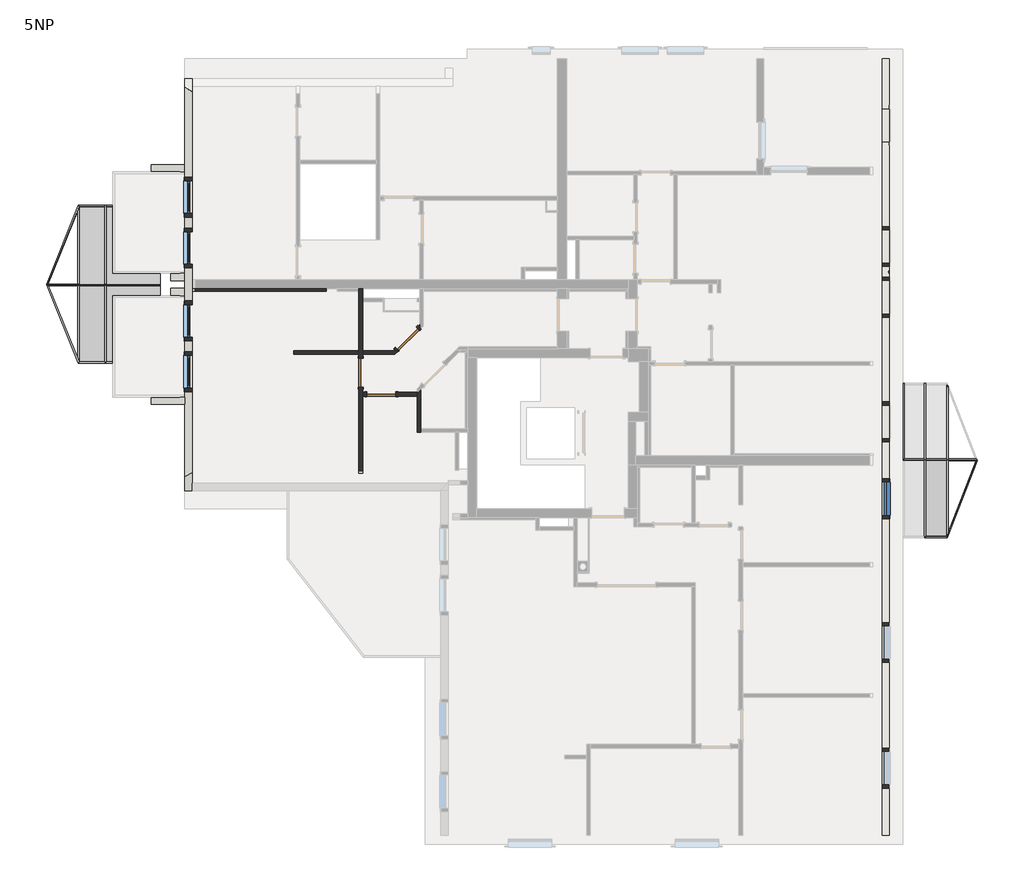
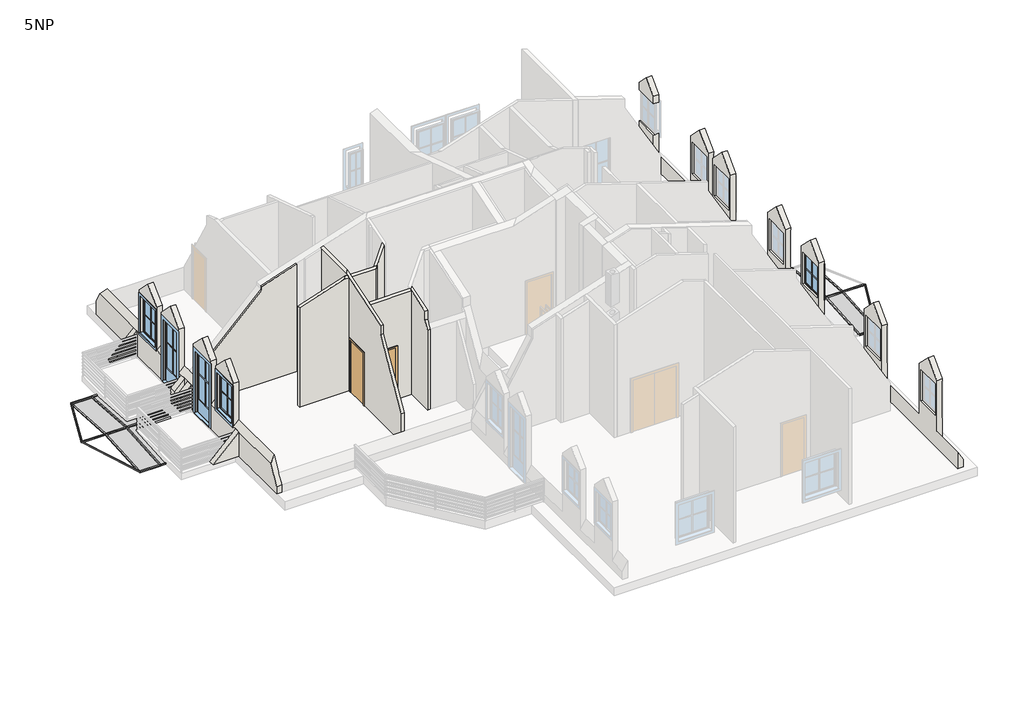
# One storey, part 2 of 4: 23 members, 13 walls, 5 plates, 5 windows, 3 doors.
"""IFC4 building model written with IfcOpenShell, lengths in millimetres."""

from ifc_helpers import new_model, si_unit, frame, origin, place, context, project, spatial, polyline, outline, extrude, faceted_brep, transform, mapped, element, save
from components import sd_800x2000_6a16926d, rectangular_mullion_40_40_c07c6f16, rectangular_mullion_40_40_c2750e26, rectangular_mullion_40_40_e33aa6b6, rectangular_mullion_40_40_65788530, rectangular_mullion_40_40_b48b72c3, rectangular_mullion_40_40_37a0d8a2, rectangular_mullion_40_40_590cdca0, rectangular_mullion_40_40_604e859a, rectangular_mullion_40_40_eb6bbd94, rectangular_mullion_40_40_bc456549, rectangular_mullion_40_40_ef17f03d, rectangular_mullion_40_40_d6f90903, rectangular_mullion_40_40_8bbfeddd, rectangular_mullion_40_40_5d815b55, rectangular_mullion_40_40_e56146ee, rectangular_mullion_40_40_14cc0a15, rectangular_mullion_40_40_f4a16c9e, rectangular_mullion_40_40_fbd32b48, rectangular_mullion_40_40_a7a4ca4f, system_panel_system_panel_37f665d0, system_panel_system_panel_7bef43a2, system_panel_system_panel_15dd2017, system_panel_system_panel_e4e5b0d0, system_panel_system_panel_76da7413, standard_window_with_mullions_4ddc0d11, standard_window_with_mullions_4f38f980, window_2_c3f3d78e, window_2_1320fec1

model = new_model("IFC4")

# Units and contexts
model_context = context("Model", 3, world=origin())
ifc_project = project(units=[si_unit("LENGTHUNIT", "METRE", prefix="MILLI")], contexts=[model_context])

# Site, building, storey
site = spatial("IfcSite", under=ifc_project)
building = spatial("IfcBuilding", under=site)
storey = spatial("IfcBuildingStorey", under=building, Name="5NP", Elevation=11800.0)

# Doors
placement = place(None, origin())
sd_800x2000_shape = sd_800x2000_6a16926d(model_context)
element("IfcDoor", 1, ObjectType="JednokridlePlne : SD 800x2000", at=placement, inside=storey, context=model_context, shape_type="MappedRepresentation", body=[
    mapped(sd_800x2000_shape, transform((-4517.2943935, 2840.0499619, 11800.0), x_axis=(0.712655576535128, 0.7015140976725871, 0.0), y_axis=(-0.7015140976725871, 0.712655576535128, 0.0), z_axis=(0.0, 0.0, 1.0))),
])
element("IfcDoor", 2, ObjectType="JednokridlePlne : SD 800x2000", at=placement, inside=storey, context=model_context, shape_type="MappedRepresentation", body=[
    mapped(sd_800x2000_shape, transform((-5807.1962165, 1908.3946515, 11800.0), x_axis=(0.0, -1.0, 0.0), y_axis=(1.0, 0.0, 0.0), z_axis=(0.0, 0.0, 1.0))),
])
element("IfcDoor", 3, ObjectType="JednokridlePlne : SD 800x2000", at=placement, inside=storey, context=model_context, shape_type="MappedRepresentation", body=[
    mapped(sd_800x2000_shape, transform((-5239.8211798, 1317.6290541, 11800.0), x_axis=(1.0, 0.0, 0.0), y_axis=(0.0, 1.0, 0.0), z_axis=(0.0, 0.0, 1.0))),
])

# Members
rectangular_mullion_40_40_shape = rectangular_mullion_40_40_c07c6f16(model_context)
element("IfcMember", 4, ObjectType="Rectangular Mullion : 40/40", at=placement, inside=storey, context=model_context, shape_type="MappedRepresentation", body=[
    mapped(rectangular_mullion_40_40_shape, transform((-12817.1962165, 4342.6290541, 11681.4726398), x_axis=(0.0, 0.9975640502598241, 0.06975647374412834), y_axis=(0.0, 0.06975647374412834, -0.9975640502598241), z_axis=(-1.0, 0.0, 0.0))),
])
rectangular_mullion_40_40_2_shape = rectangular_mullion_40_40_c2750e26(model_context)
element("IfcMember", 5, ObjectType="Rectangular Mullion : 40/40", at=placement, inside=storey, context=model_context, shape_type="MappedRepresentation", body=[
    mapped(rectangular_mullion_40_40_2_shape, transform((-13567.1962165, 4342.6290541, 11681.4726398), x_axis=(0.0, 0.9975640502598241, 0.06975647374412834), y_axis=(0.0, 0.06975647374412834, -0.9975640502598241), z_axis=(-1.0, 0.0, 0.0))),
])
rectangular_mullion_40_40_3_shape = rectangular_mullion_40_40_e33aa6b6(model_context)
element("IfcMember", 6, ObjectType="Rectangular Mullion : 40/40", at=placement, inside=storey, context=model_context, shape_type="MappedRepresentation", body=[
    mapped(rectangular_mullion_40_40_3_shape, transform((11184.5471242, -507.3709459, 11678.5944754), x_axis=(0.0, -0.9975640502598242, 0.06975647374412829), y_axis=(0.0, -0.06975647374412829, -0.9975640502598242), z_axis=(1.0, 0.0, 0.0))),
])
rectangular_mullion_40_40_4_shape = rectangular_mullion_40_40_65788530(model_context)
element("IfcMember", 7, ObjectType="Rectangular Mullion : 40/40", at=placement, inside=storey, context=model_context, shape_type="MappedRepresentation", body=[
    mapped(rectangular_mullion_40_40_4_shape, transform((10338.0299794, -507.3709459, 11678.5944754), x_axis=(0.0, -0.9975640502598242, 0.06975647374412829), y_axis=(0.0, -0.06975647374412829, -0.9975640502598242), z_axis=(1.0, 0.0, 0.0))),
])
rectangular_mullion_40_40_5_shape = rectangular_mullion_40_40_b48b72c3(model_context)
element("IfcMember", 8, ObjectType="Rectangular Mullion : 40/40", at=placement, inside=storey, context=model_context, shape_type="MappedRepresentation", body=[
    mapped(rectangular_mullion_40_40_5_shape, transform((9725.4168815, -507.3709459, 11678.5944754), x_axis=(0.0, -0.9975640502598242, 0.06975647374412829), y_axis=(0.0, -0.06975647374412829, -0.9975640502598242), z_axis=(1.0, 0.0, 0.0))),
])
rectangular_mullion_40_40_6_shape = rectangular_mullion_40_40_37a0d8a2(model_context)
element("IfcMember", 9, ObjectType="Rectangular Mullion : 40/40", at=placement, inside=storey, context=model_context, shape_type="MappedRepresentation", body=[
    mapped(rectangular_mullion_40_40_6_shape, transform((11184.5112279, -507.3709532, 11678.5944749), x_axis=(0.9999999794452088, 0.00020226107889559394, 1.4143472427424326e-05), y_axis=(0.0, 0.06975647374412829, -0.9975640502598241), z_axis=(-0.000202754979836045, 0.9975640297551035, 0.06975647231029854))),
])
rectangular_mullion_40_40_7_shape = rectangular_mullion_40_40_590cdca0(model_context)
element("IfcMember", 10, ObjectType="Rectangular Mullion : 40/40", at=placement, inside=storey, context=model_context, shape_type="MappedRepresentation", body=[
    mapped(rectangular_mullion_40_40_7_shape, transform((-12837.1962165, 4342.6290541, 11681.4726398), x_axis=(1.0, 0.0, 0.0), y_axis=(0.0, 0.06975647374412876, -0.997564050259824), z_axis=(0.0, 0.997564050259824, 0.06975647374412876))),
])
rectangular_mullion_40_40_8_shape = rectangular_mullion_40_40_604e859a(model_context)
element("IfcMember", 11, ObjectType="Rectangular Mullion : 40/40", at=placement, inside=storey, context=model_context, shape_type="MappedRepresentation", body=[
    mapped(rectangular_mullion_40_40_8_shape, transform((-13587.1962165, 4342.6290541, 11681.4726398), x_axis=(-1.0, 0.0, 0.0), y_axis=(0.0, -0.06975647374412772, -0.9975640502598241), z_axis=(0.0, -0.9975640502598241, 0.06975647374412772))),
])
rectangular_mullion_40_40_9_shape = rectangular_mullion_40_40_eb6bbd94(model_context)
element("IfcMember", 12, ObjectType="Rectangular Mullion : 40/40", at=placement, inside=storey, context=model_context, shape_type="MappedRepresentation", body=[
    mapped(rectangular_mullion_40_40_9_shape, transform((-13587.1962165, 6517.6290541, 11529.3818239), x_axis=(0.0, 0.9975640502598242, -0.06975647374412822), y_axis=(0.0, -0.06975647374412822, -0.9975640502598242), z_axis=(-1.0, 0.0, 0.0))),
])
element("IfcMember", 13, ObjectType="Rectangular Mullion : 40/40", at=placement, inside=storey, context=model_context, shape_type="MappedRepresentation", body=[
    mapped(rectangular_mullion_40_40_shape, transform((-12817.1962165, 6517.6290541, 11529.3818239), x_axis=(0.0, 0.9975640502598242, -0.06975647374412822), y_axis=(0.0, -0.06975647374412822, -0.9975640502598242), z_axis=(-1.0, 0.0, 0.0))),
])
element("IfcMember", 14, ObjectType="Rectangular Mullion : 40/40", at=placement, inside=storey, context=model_context, shape_type="MappedRepresentation", body=[
    mapped(rectangular_mullion_40_40_shape, transform((-11337.1962165, 2167.6290541, 11529.3818239), x_axis=(0.0, -0.9975640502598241, -0.06975647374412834), y_axis=(0.0, 0.06975647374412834, -0.9975640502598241), z_axis=(1.0, 0.0, 0.0))),
])
rectangular_mullion_40_40_10_shape = rectangular_mullion_40_40_bc456549(model_context)
element("IfcMember", 15, ObjectType="Rectangular Mullion : 40/40", at=placement, inside=storey, context=model_context, shape_type="MappedRepresentation", body=[
    mapped(rectangular_mullion_40_40_10_shape, transform((-12857.1962165, 2167.6290541, 11529.3818239), x_axis=(0.0, -0.9975640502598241, -0.06975647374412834), y_axis=(0.0, 0.06975647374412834, -0.9975640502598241), z_axis=(1.0, 0.0, 0.0))),
])
rectangular_mullion_40_40_11_shape = rectangular_mullion_40_40_ef17f03d(model_context)
element("IfcMember", 16, ObjectType="Rectangular Mullion : 40/40", at=placement, inside=storey, context=model_context, shape_type="MappedRepresentation", body=[
    mapped(rectangular_mullion_40_40_11_shape, transform((-13587.2318596, 2167.5948517, 11529.3794322), x_axis=(-0.7206941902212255, -0.6915643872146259, -0.048358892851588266), y_axis=(0.0, 0.06975647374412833, -0.997564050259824), z_axis=(0.6932531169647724, -0.7189386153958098, -0.05027308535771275))),
])
rectangular_mullion_40_40_12_shape = rectangular_mullion_40_40_d6f90903(model_context)
element("IfcMember", 17, ObjectType="Rectangular Mullion : 40/40", at=placement, inside=storey, context=model_context, shape_type="MappedRepresentation", body=[
    mapped(rectangular_mullion_40_40_12_shape, transform((-14465.3914485, 4342.6290633, 11681.4726392), x_axis=(-0.999999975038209, -0.0002228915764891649, 1.5586097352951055e-05), y_axis=(0.0, -0.06975647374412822, -0.9975640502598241), z_axis=(0.0002234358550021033, -0.9975640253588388, 0.0697564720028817))),
])
rectangular_mullion_40_40_13_shape = rectangular_mullion_40_40_8bbfeddd(model_context)
element("IfcMember", 18, ObjectType="Rectangular Mullion : 40/40", at=placement, inside=storey, context=model_context, shape_type="MappedRepresentation", body=[
    mapped(rectangular_mullion_40_40_13_shape, transform((10358.0299794, -507.3709459, 11678.5944754), x_axis=(1.0, 0.0, 0.0), y_axis=(0.0, 0.06975647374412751, -0.9975640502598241), z_axis=(0.0, 0.997564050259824, 0.0697564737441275))),
])
rectangular_mullion_40_40_14_shape = rectangular_mullion_40_40_5d815b55(model_context)
element("IfcMember", 19, ObjectType="Rectangular Mullion : 40/40", at=placement, inside=storey, context=model_context, shape_type="MappedRepresentation", body=[
    mapped(rectangular_mullion_40_40_14_shape, transform((9745.4168815, -507.3709459, 11678.5944754), x_axis=(-1.0, 0.0, 0.0), y_axis=(0.0, -0.0697564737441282, -0.9975640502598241), z_axis=(0.0, -0.997564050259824, 0.06975647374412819))),
])
rectangular_mullion_40_40_15_shape = rectangular_mullion_40_40_e56146ee(model_context)
element("IfcMember", 20, ObjectType="Rectangular Mullion : 40/40", at=placement, inside=storey, context=model_context, shape_type="MappedRepresentation", body=[
    mapped(rectangular_mullion_40_40_15_shape, transform((10358.0299794, -2632.3709459, 11530.0), x_axis=(0.0, -0.9975640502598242, -0.06975647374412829), y_axis=(0.0, 0.06975647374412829, -0.9975640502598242), z_axis=(1.0, 0.0, 0.0))),
])
rectangular_mullion_40_40_16_shape = rectangular_mullion_40_40_14cc0a15(model_context)
element("IfcMember", 21, ObjectType="Rectangular Mullion : 40/40", at=placement, inside=storey, context=model_context, shape_type="MappedRepresentation", body=[
    mapped(rectangular_mullion_40_40_16_shape, transform((9132.8037835, -507.3709459, 11678.5944754), x_axis=(-1.0, 0.0, 0.0), y_axis=(0.0, -0.0697564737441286, -0.9975640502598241), z_axis=(0.0, -0.997564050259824, 0.06975647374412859))),
])
element("IfcMember", 22, ObjectType="Rectangular Mullion : 40/40", at=placement, inside=storey, context=model_context, shape_type="MappedRepresentation", body=[
    mapped(rectangular_mullion_40_40_7_shape, transform((-12837.1962165, 4342.6290541, 11681.4726398), x_axis=(-1.0, 0.0, 0.0), y_axis=(0.0, -0.06975647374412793, -0.9975640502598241), z_axis=(0.0, -0.997564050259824, 0.06975647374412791))),
])
rectangular_mullion_40_40_17_shape = rectangular_mullion_40_40_f4a16c9e(model_context)
element("IfcMember", 23, ObjectType="Rectangular Mullion : 40/40", at=placement, inside=storey, context=model_context, shape_type="MappedRepresentation", body=[
    mapped(rectangular_mullion_40_40_17_shape, transform((-13587.1962165, 4342.6290541, 11681.4726398), x_axis=(1.0, 0.0, 0.0), y_axis=(0.0, 0.06975647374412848, -0.9975640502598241), z_axis=(0.0, 0.997564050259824, 0.06975647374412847))),
])
rectangular_mullion_40_40_18_shape = rectangular_mullion_40_40_fbd32b48(model_context)
element("IfcMember", 24, ObjectType="Rectangular Mullion : 40/40", at=placement, inside=storey, context=model_context, shape_type="MappedRepresentation", body=[
    mapped(rectangular_mullion_40_40_18_shape, transform((-14465.4329195, 4342.6290541, 11681.4726398), x_axis=(0.0, 0.9975640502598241, 0.06975647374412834), y_axis=(0.0, 0.06975647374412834, -0.9975640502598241), z_axis=(-1.0, 0.0, 0.0))),
])
rectangular_mullion_40_40_19_shape = rectangular_mullion_40_40_a7a4ca4f(model_context)
element("IfcMember", 25, ObjectType="Rectangular Mullion : 40/40", at=placement, inside=storey, context=model_context, shape_type="MappedRepresentation", body=[
    mapped(rectangular_mullion_40_40_19_shape, transform((10358.0299794, -507.3709459, 11678.5944754), x_axis=(-1.0, 0.0, 0.0), y_axis=(0.0, -0.06975647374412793, -0.9975640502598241), z_axis=(0.0, -0.9975640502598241, 0.06975647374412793))),
])
element("IfcMember", 26, ObjectType="Rectangular Mullion : 40/40", at=placement, inside=storey, context=model_context, shape_type="MappedRepresentation", body=[
    mapped(rectangular_mullion_40_40_14_shape, transform((9745.4168815, -507.3709459, 11678.5944754), x_axis=(1.0, 0.0, 0.0), y_axis=(0.0, 0.06975647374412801, -0.9975640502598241), z_axis=(0.0, 0.997564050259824, 0.069756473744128))),
])

# Plates
system_panel_system_panel_shape = system_panel_system_panel_37f665d0(model_context)
element("IfcPlate", 27, ObjectType="System Panel : System Panel", at=placement, inside=storey, context=model_context, shape_type="MappedRepresentation", body=[
    mapped(system_panel_system_panel_shape, transform((-12077.1962165, 6477.7264921, 11532.1720828), x_axis=(-1.0, 0.0, 0.0), y_axis=(0.0, -0.06975647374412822, -0.9975640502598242), z_axis=(0.0, -0.9975640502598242, 0.06975647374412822))),
])
system_panel_system_panel_2_shape = system_panel_system_panel_7bef43a2(model_context)
element("IfcPlate", 28, ObjectType="System Panel : System Panel", at=placement, inside=storey, context=model_context, shape_type="MappedRepresentation", body=[
    mapped(system_panel_system_panel_2_shape, transform((-12077.1962165, 2207.5316161, 11532.1720828), x_axis=(1.0, 0.0, 0.0), y_axis=(0.0, 0.06975647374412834, -0.9975640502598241), z_axis=(0.0, 0.9975640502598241, 0.06975647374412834))),
])
system_panel_system_panel_3_shape = system_panel_system_panel_15dd2017(model_context)
element("IfcPlate", 29, ObjectType="System Panel : System Panel", at=placement, inside=storey, context=model_context, shape_type="MappedRepresentation", body=[
    mapped(system_panel_system_panel_3_shape, transform((-13212.1962165, 2207.5316161, 11532.1720828), x_axis=(1.0, 0.0, 0.0), y_axis=(0.0, 0.06975647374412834, -0.9975640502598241), z_axis=(0.0, 0.9975640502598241, 0.06975647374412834))),
])
system_panel_system_panel_4_shape = system_panel_system_panel_e4e5b0d0(model_context)
element("IfcPlate", 30, ObjectType="System Panel : System Panel", at=placement, inside=storey, context=model_context, shape_type="MappedRepresentation", body=[
    mapped(system_panel_system_panel_4_shape, transform((-13212.1962165, 6477.7264921, 11532.1720828), x_axis=(-1.0, 0.0, 0.0), y_axis=(0.0, -0.06975647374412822, -0.9975640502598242), z_axis=(0.0, -0.9975640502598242, 0.06975647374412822))),
])
system_panel_system_panel_5_shape = system_panel_system_panel_76da7413(model_context)
element("IfcPlate", 31, ObjectType="System Panel : System Panel", at=placement, inside=storey, context=model_context, shape_type="MappedRepresentation", body=[
    mapped(system_panel_system_panel_5_shape, transform((10051.7234305, -2592.4683839, 11532.7902589), x_axis=(1.0, 0.0, 0.0), y_axis=(0.0, 0.06975647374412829, -0.9975640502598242), z_axis=(0.0, 0.9975640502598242, 0.06975647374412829))),
])

# Walls
element("IfcWall", 32, ObjectType="Exterior - 150+50mm", at=placement, inside=storey, context=model_context, shape_type="Brep", body=[
    faceted_brep([(-10656.4352243, -1338.1208451, 11800.0), (-10656.4352243, -1338.1208451, 12079.795831), (-10656.4352243, -962.2859339, 12730.7609923), (-10656.4352243, 1037.6290541, 12730.7609923), (-10656.4352243, 1237.6290541, 12730.7609923), (-10656.4352243, 1387.6290541, 12730.7609923), (-10656.4352243, 1387.6290541, 14387.8679656), (-10656.4352243, 1937.6290541, 14937.8679656), (-10656.4352243, 2487.6290541, 14387.8679656), (-10656.4352243, 2487.6290541, 12730.7609923), (-10656.4352243, 2787.6290541, 12730.7609923), (-10656.4352243, 2787.6290541, 14387.8679656), (-10656.4352243, 3337.6290541, 14937.8679656), (-10656.4352243, 3887.6290541, 14387.8679656), (-10656.4352243, 3887.6290541, 12730.7609923), (-10656.4352243, 4037.6290541, 12730.7609923), (-10656.4352243, 4237.6290541, 12730.7609923), (-10656.4352243, 4447.6290541, 12730.7609923), (-10656.4352243, 4647.6290541, 12730.7609923), (-10656.4352243, 4797.6290541, 12730.7609923), (-10656.4352243, 4797.6290541, 14387.8679656), (-10656.4352243, 5347.6290541, 14937.8679656), (-10656.4352243, 5897.6290541, 14387.8679656), (-10656.4352243, 5897.6290541, 12730.7609923), (-10656.4352243, 6197.6290541, 12730.7609923), (-10656.4352243, 6197.6290541, 14387.8679656), (-10656.4352243, 6747.6290541, 14937.8679656), (-10656.4352243, 7297.6290541, 14387.8679656), (-10656.4352243, 7297.6290541, 12730.7609923), (-10656.4352243, 7447.6290541, 12730.7609923), (-10656.4352243, 7647.6290541, 12730.7609923), (-10656.4352243, 9771.3426296, 12730.7609923), (-10656.4352243, 10007.6290541, 12321.5009), (-10656.4352243, 10007.6290541, 11800.0), (-10656.4352243, 7647.6290541, 11800.0), (-10656.4352243, 7447.6290541, 11800.0), (-10656.4352243, 5797.6290541, 11800.0), (-10656.4352243, 5797.6290541, 14200.0), (-10656.4352243, 4897.6290541, 14200.0), (-10656.4352243, 4897.6290541, 11800.0), (-10656.4352243, 4647.6290541, 11800.0), (-10656.4352243, 4447.6290541, 11800.0), (-10656.4352243, 4237.6290541, 11800.0), (-10656.4352243, 4037.6290541, 11800.0), (-10656.4352243, 3782.6290541, 11800.0), (-10656.4352243, 3782.6290541, 14200.0), (-10656.4352243, 2882.6290541, 14200.0), (-10656.4352243, 2882.6290541, 11800.0), (-10656.4352243, 1237.6290541, 11800.0), (-10656.4352243, 1037.6290541, 11800.0), (-10656.4352243, 6297.6290541, 14200.0), (-10656.4352243, 6297.6290541, 12800.0), (-10656.4352243, 7197.6290541, 12800.0), (-10656.4352243, 7197.6290541, 14200.0), (-10656.4352243, 1487.6290541, 12800.0), (-10656.4352243, 2387.6290541, 12800.0), (-10656.4352243, 2387.6290541, 14200.0), (-10656.4352243, 1487.6290541, 14200.0), (-10456.4352243, -1338.1208451, 12079.795831), (-10456.4352243, -1338.1208451, 11800.0), (-10456.4352243, -1138.1208451, 11800.0), (-10456.4352243, 2882.6290541, 11800.0), (-10456.4352243, 2882.6290541, 14200.0), (-10456.4352243, 3782.6290541, 14200.0), (-10456.4352243, 3782.6290541, 11800.0), (-10456.4352243, 4152.6290541, 11800.0), (-10456.4352243, 4217.6290541, 11800.0), (-10456.4352243, 4467.6290541, 11800.0), (-10456.4352243, 4897.6290541, 11800.0), (-10456.4352243, 4897.6290541, 14200.0), (-10456.4352243, 5797.6290541, 14200.0), (-10456.4352243, 5797.6290541, 11800.0), (-10456.4352243, 9807.6290541, 11800.0), (-10456.4352243, 10007.6290541, 11800.0), (-10456.4352243, 10007.6290541, 12321.5009), (-10456.4352243, 9807.6290541, 12667.9110615), (-10456.4352243, 9655.8725758, 12930.7609923), (-10456.4352243, 7297.6290541, 12930.7609923), (-10456.4352243, 7297.6290541, 14387.8679656), (-10456.4352243, 6747.6290541, 14937.8679656), (-10456.4352243, 6197.6290541, 14387.8679656), (-10456.4352243, 6197.6290541, 12930.7609923), (-10456.4352243, 5897.6290541, 12930.7609923), (-10456.4352243, 5897.6290541, 14387.8679656), (-10456.4352243, 5347.6290541, 14937.8679656), (-10456.4352243, 4797.6290541, 14387.8679656), (-10456.4352243, 4797.6290541, 12930.7609923), (-10456.4352243, 4467.6290541, 12930.7609923), (-10456.4352243, 4217.6290541, 12930.7609923), (-10456.4352243, 4152.6290541, 12930.7609923), (-10456.4352243, 3887.6290541, 12930.7609923), (-10456.4352243, 3887.6290541, 14387.8679656), (-10456.4352243, 3337.6290541, 14937.8679656), (-10456.4352243, 2787.6290541, 14387.8679656), (-10456.4352243, 2787.6290541, 12930.7609923), (-10456.4352243, 2487.6290541, 12930.7609923), (-10456.4352243, 2487.6290541, 14387.8679656), (-10456.4352243, 1937.6290541, 14937.8679656), (-10456.4352243, 1387.6290541, 14387.8679656), (-10456.4352243, 1387.6290541, 12930.7609923), (-10456.4352243, -846.8158801, 12930.7609923), (-10456.4352243, -1138.1208451, 12426.2059925), (-10456.4352243, 6297.6290541, 12800.0), (-10456.4352243, 6297.6290541, 14200.0), (-10456.4352243, 7197.6290541, 14200.0), (-10456.4352243, 7197.6290541, 12800.0), (-10456.4352243, 1487.6290541, 12800.0), (-10456.4352243, 1487.6290541, 14200.0), (-10456.4352243, 2387.6290541, 14200.0), (-10456.4352243, 2387.6290541, 12800.0)], [[[0, 1, 2, 3, 4, 5, 6, 7, 8, 9, 10, 11, 12, 13, 14, 15, 16, 17, 18, 19, 20, 21, 22, 23, 24, 25, 26, 27, 28, 29, 30, 31, 32, 33, 34, 35, 36, 37, 38, 39, 40, 41, 42, 43, 44, 45, 46, 47, 48, 49], [50, 51, 52, 53], [54, 55, 56, 57]], [[58, 59, 60, 61, 62, 63, 64, 65, 66, 67, 68, 69, 70, 71, 72, 73, 74, 75, 76, 77, 78, 79, 80, 81, 82, 83, 84, 85, 86, 87, 88, 89, 90, 91, 92, 93, 94, 95, 96, 97, 98, 99, 100, 101], [102, 103, 104, 105], [106, 107, 108, 109]], [[59, 0, 49, 48, 47, 61, 60]], [[33, 73, 72, 71, 36, 35, 34]], [[39, 68, 67, 66, 65, 64, 44, 43, 42, 41, 40]], [[1, 0, 59, 58]], [[33, 32, 74, 73]], [[98, 6, 5, 99]], [[8, 96, 95, 9]], [[93, 11, 10, 94]], [[13, 91, 90, 14]], [[85, 20, 19, 86]], [[22, 83, 82, 23]], [[80, 25, 24, 81]], [[27, 78, 77, 28]], [[28, 77, 76, 31, 30, 29]], [[1, 58, 101, 100, 2]], [[74, 32, 31, 76, 75]], [[24, 23, 82, 81]], [[14, 90, 89, 88, 87, 86, 19, 18, 17, 16, 15]], [[10, 9, 95, 94]], [[99, 5, 4, 3, 2, 100]], [[83, 22, 21, 84]], [[20, 85, 84, 21]], [[78, 27, 26, 79]], [[25, 80, 79, 26]], [[91, 13, 12, 92]], [[11, 93, 92, 12]], [[96, 8, 7, 97]], [[6, 98, 97, 7]], [[38, 69, 68, 39]], [[69, 38, 37, 70]], [[70, 37, 36, 71]], [[102, 51, 50, 103]], [[103, 50, 53, 104]], [[104, 53, 52, 105]], [[51, 102, 105, 52]], [[63, 45, 44, 64]], [[45, 63, 62, 46]], [[46, 62, 61, 47]], [[107, 106, 54, 57]], [[108, 107, 57, 56]], [[109, 108, 56, 55]], [[106, 109, 55, 54]]]),
])
element("IfcWall", 33, ObjectType="Exterior - 150+50mm", at=placement, inside=storey, context=model_context, shape_type="SweptSolid", body=[
    extrude(outline(polyline([(11800.0, -10656.4352243), (12730.7609923, -10656.4352243), (11800.0, -11587.1962165), (11800.0, -10656.4352243)])), frame((0.0, 7447.6290541, 0.0), z_axis=(0.0, 1.0, 0.0), x_axis=(0.0, 0.0, 1.0)), (0.0, 0.0, 1.0), 200.0),
])
element("IfcWall", 34, ObjectType="Exterior - 150+50mm", at=placement, inside=storey, context=model_context, shape_type="Brep", body=[
    faceted_brep([(8557.3155772, 8275.6927772, 12437.9668213), (8557.3155772, 8275.6927772, 13000.0), (8557.3155772, 9175.6927772, 13000.0), (8557.3155772, 9175.6927772, 12437.9668213), (8557.3155772, 9275.6927772, 12437.9668213), (8557.3155772, 10567.6290541, 12437.9668213), (8557.3155772, 10567.6290541, 11800.0), (8557.3155772, -10832.3709459, 11800.0), (8557.3155772, -10832.3709459, 12437.9668213), (8557.3155772, -9532.3709459, 12437.9668213), (8557.3155772, -9532.3709459, 14387.8679656), (8557.3155772, -8982.3709459, 14937.8679656), (8557.3155772, -8432.3709459, 14387.8679656), (8557.3155772, -8432.3709459, 12437.9668213), (8557.3155772, -6074.0530367, 12437.9668213), (8557.3155772, -6074.0530367, 14387.8679656), (8557.3155772, -5524.0530367, 14937.8679656), (8557.3155772, -4974.0530367, 14387.8679656), (8557.3155772, -4974.0530367, 12437.9668213), (8557.3155772, -2113.5367865, 12437.9668213), (8557.3155772, -2113.5367865, 14387.8679656), (8557.3155772, -1563.5367865, 14937.8679656), (8557.3155772, -1013.5367865, 14387.8679656), (8557.3155772, -1013.5367865, 12437.9668213), (8557.3155772, 5.9947187, 12437.9668213), (8557.3155772, 5.9947187, 14387.8679656), (8557.3155772, 555.9947187, 14937.8679656), (8557.3155772, 1105.9947187, 14387.8679656), (8557.3155772, 1105.9947187, 12437.9668213), (8557.3155772, 3438.4530256, 12437.9668213), (8557.3155772, 3438.4530256, 14387.8679656), (8557.3155772, 3988.4530256, 14937.8679656), (8557.3155772, 4538.4530256, 14387.8679656), (8557.3155772, 4538.4530256, 12437.9668213), (8557.3155772, 4838.4530256, 12437.9668213), (8557.3155772, 4838.4530256, 14387.8679656), (8557.3155772, 5388.4530256, 14937.8679656), (8557.3155772, 5938.4530256, 14387.8679656), (8557.3155772, 5938.4530256, 12437.9668213), (8557.3155772, 8175.6927772, 12437.9668213), (8557.3155772, -8532.3709459, 13000.0), (8557.3155772, -8532.3709459, 14200.0), (8557.3155772, -9432.3709459, 14200.0), (8557.3155772, -9432.3709459, 13000.0), (8557.3155772, -5074.0530367, 13000.0), (8557.3155772, -5074.0530367, 14200.0), (8557.3155772, -5974.0530367, 14200.0), (8557.3155772, -5974.0530367, 13000.0), (8557.3155772, -1113.5367865, 13000.0), (8557.3155772, -1113.5367865, 14200.0), (8557.3155772, -2013.5367865, 14200.0), (8557.3155772, -2013.5367865, 13000.0), (8557.3155772, 1005.9947187, 13000.0), (8557.3155772, 1005.9947187, 14200.0), (8557.3155772, 105.9947187, 14200.0), (8557.3155772, 105.9947187, 13000.0), (8557.3155772, 5838.4530256, 13000.0), (8557.3155772, 5838.4530256, 14200.0), (8557.3155772, 4938.4530256, 14200.0), (8557.3155772, 4938.4530256, 13000.0), (8557.3155772, 4438.4530256, 13000.0), (8557.3155772, 4438.4530256, 14200.0), (8557.3155772, 3538.4530256, 14200.0), (8557.3155772, 3538.4530256, 13000.0), (8757.3155772, 9175.6927772, 13000.0), (8757.3155772, 8275.6927772, 13000.0), (8757.3155772, 8275.6927772, 12091.5566597), (8757.3155772, 5938.4530256, 12091.5566597), (8757.3155772, 5938.4530256, 14387.8679656), (8757.3155772, 5388.4530256, 14937.8679656), (8757.3155772, 4838.4530256, 14387.8679656), (8757.3155772, 4838.4530256, 12091.5566597), (8757.3155772, 4746.8963658, 12091.5566597), (8757.3155772, 4688.4530256, 12150.0), (8757.3155772, 4630.0096853, 12091.5566597), (8757.3155772, 4538.4530256, 12091.5566597), (8757.3155772, 4538.4530256, 14387.8679656), (8757.3155772, 3988.4530256, 14937.8679656), (8757.3155772, 3438.4530256, 14387.8679656), (8757.3155772, 3438.4530256, 12091.5566597), (8757.3155772, 1105.9947187, 12091.5566597), (8757.3155772, 1105.9947187, 14387.8679656), (8757.3155772, 555.9947187, 14937.8679656), (8757.3155772, 5.9947187, 14387.8679656), (8757.3155772, 5.9947187, 12091.5566597), (8757.3155772, -1013.5367865, 12091.5566597), (8757.3155772, -1013.5367865, 14387.8679656), (8757.3155772, -1563.5367865, 14937.8679656), (8757.3155772, -2113.5367865, 14387.8679656), (8757.3155772, -2113.5367865, 12091.5566597), (8757.3155772, -4974.0530367, 12091.5566597), (8757.3155772, -4974.0530367, 14387.8679656), (8757.3155772, -5524.0530367, 14937.8679656), (8757.3155772, -6074.0530367, 14387.8679656), (8757.3155772, -6074.0530367, 12091.5566597), (8757.3155772, -8432.3709459, 12091.5566597), (8757.3155772, -8432.3709459, 14387.8679656), (8757.3155772, -8982.3709459, 14937.8679656), (8757.3155772, -9532.3709459, 14387.8679656), (8757.3155772, -9532.3709459, 12091.5566597), (8757.3155772, -10832.3709459, 12091.5566597), (8757.3155772, -10832.3709459, 11800.0), (8757.3155772, 10567.6290541, 11800.0), (8757.3155772, 10567.6290541, 12091.5566597), (8757.3155772, 9175.6927772, 12091.5566597), (8757.3155772, -8532.3709459, 13000.0), (8757.3155772, -9432.3709459, 13000.0), (8757.3155772, -9432.3709459, 14200.0), (8757.3155772, -8532.3709459, 14200.0), (8757.3155772, -5074.0530367, 13000.0), (8757.3155772, -5974.0530367, 13000.0), (8757.3155772, -5974.0530367, 14200.0), (8757.3155772, -5074.0530367, 14200.0), (8757.3155772, -1113.5367865, 13000.0), (8757.3155772, -2013.5367865, 13000.0), (8757.3155772, -2013.5367865, 14200.0), (8757.3155772, -1113.5367865, 14200.0), (8757.3155772, 1005.9947187, 13000.0), (8757.3155772, 105.9947187, 13000.0), (8757.3155772, 105.9947187, 14200.0), (8757.3155772, 1005.9947187, 14200.0), (8757.3155772, 5838.4530256, 13000.0), (8757.3155772, 4938.4530256, 13000.0), (8757.3155772, 4938.4530256, 14200.0), (8757.3155772, 5838.4530256, 14200.0), (8757.3155772, 4438.4530256, 13000.0), (8757.3155772, 3538.4530256, 13000.0), (8757.3155772, 3538.4530256, 14200.0), (8757.3155772, 4438.4530256, 14200.0), (8723.5732989, 4688.4530256, 12150.0)], [[[0, 1, 2, 3, 4, 5, 6, 7, 8, 9, 10, 11, 12, 13, 14, 15, 16, 17, 18, 19, 20, 21, 22, 23, 24, 25, 26, 27, 28, 29, 30, 31, 32, 33, 34, 35, 36, 37, 38, 39], [40, 41, 42, 43], [44, 45, 46, 47], [48, 49, 50, 51], [52, 53, 54, 55], [56, 57, 58, 59], [60, 61, 62, 63]], [[64, 65, 66, 67, 68, 69, 70, 71, 72, 73, 74, 75, 76, 77, 78, 79, 80, 81, 82, 83, 84, 85, 86, 87, 88, 89, 90, 91, 92, 93, 94, 95, 96, 97, 98, 99, 100, 101, 102, 103, 104], [105, 106, 107, 108], [109, 110, 111, 112], [113, 114, 115, 116], [117, 118, 119, 120], [121, 122, 123, 124], [125, 126, 127, 128]], [[7, 6, 102, 101]], [[8, 7, 101, 100]], [[6, 5, 103, 102]], [[64, 104, 3, 2]], [[66, 65, 1, 0]], [[17, 91, 90, 18]], [[93, 15, 14, 94]], [[98, 10, 9, 99]], [[12, 96, 95, 13]], [[88, 20, 19, 89]], [[22, 86, 85, 23]], [[83, 25, 24, 84]], [[27, 81, 80, 28]], [[78, 30, 29, 79]], [[32, 76, 75, 33]], [[70, 35, 34, 71]], [[37, 68, 67, 38]], [[12, 11, 97, 96]], [[11, 10, 98, 97]], [[17, 16, 92, 91]], [[16, 15, 93, 92]], [[22, 21, 87, 86]], [[21, 20, 88, 87]], [[27, 26, 82, 81]], [[26, 25, 83, 82]], [[32, 31, 77, 76]], [[31, 30, 78, 77]], [[37, 36, 69, 68]], [[36, 35, 70, 69]], [[9, 8, 100, 99]], [[74, 73, 129]], [[73, 72, 129]], [[14, 13, 95, 94]], [[19, 18, 90, 89]], [[24, 23, 85, 84]], [[29, 28, 80, 79]], [[34, 33, 75, 74, 129, 72, 71]], [[0, 39, 38, 67, 66]], [[5, 4, 3, 104, 103]], [[41, 40, 105, 108]], [[42, 41, 108, 107]], [[43, 42, 107, 106]], [[40, 43, 106, 105]], [[45, 44, 109, 112]], [[46, 45, 112, 111]], [[47, 46, 111, 110]], [[44, 47, 110, 109]], [[49, 48, 113, 116]], [[50, 49, 116, 115]], [[51, 50, 115, 114]], [[48, 51, 114, 113]], [[53, 52, 117, 120]], [[54, 53, 120, 119]], [[55, 54, 119, 118]], [[52, 55, 118, 117]], [[57, 56, 121, 124]], [[58, 57, 124, 123]], [[59, 58, 123, 122]], [[56, 59, 122, 121]], [[61, 60, 125, 128]], [[62, 61, 128, 127]], [[63, 62, 127, 126]], [[60, 63, 126, 125]], [[2, 1, 65, 64]]]),
    faceted_brep([(8557.3155772, 8275.6927772, 14200.0), (8557.3155772, 8275.6927772, 14487.8679656), (8557.3155772, 8725.6927772, 14937.8679656), (8557.3155772, 9175.6927772, 14487.8679656), (8557.3155772, 9175.6927772, 14200.0), (8757.3155772, 8275.6927772, 14200.0), (8757.3155772, 9175.6927772, 14200.0), (8757.3155772, 9175.6927772, 14487.8679656), (8757.3155772, 8725.6927772, 14937.8679656), (8757.3155772, 8275.6927772, 14487.8679656)], [[[0, 1, 2, 3, 4]], [[5, 6, 7, 8, 9]], [[7, 6, 4, 3]], [[5, 9, 1, 0]], [[3, 2, 8, 7]], [[2, 1, 9, 8]], [[0, 4, 6, 5]]]),
])
element("IfcWall", 35, ObjectType="Exterior - 200mm", at=placement, inside=storey, context=model_context, shape_type="SweptSolid", body=[
    extrude(outline(polyline([(11800.0, -10656.4352243), (12730.7609923, -10656.4352243), (12350.0, -11037.1962165), (11800.0, -11037.1962165), (11800.0, -10656.4352243)])), frame((0.0, 4447.6290541, 0.0), z_axis=(0.0, 1.0, 0.0), x_axis=(0.0, 0.0, 1.0)), (0.0, 0.0, 1.0), 200.0),
])
element("IfcWall", 36, ObjectType="Exterior - 200mm", at=placement, inside=storey, context=model_context, shape_type="SweptSolid", body=[
    extrude(outline(polyline([(11800.0, -10656.4352243), (12730.7609923, -10656.4352243), (12350.0, -11037.1962165), (11800.0, -11037.1962165), (11800.0, -10656.4352243)])), frame((0.0, 4037.6290541, 0.0), z_axis=(0.0, 1.0, 0.0), x_axis=(0.0, 0.0, 1.0)), (0.0, 0.0, 1.0), 200.0),
])
element("IfcWall", 37, ObjectType="Exterior - 200mm", at=placement, inside=storey, context=model_context, shape_type="SweptSolid", body=[
    extrude(outline(polyline([(11800.0, -10656.4352243), (12730.7609923, -10656.4352243), (11800.0, -11587.1962165), (11800.0, -10656.4352243)])), frame((0.0, 1037.6290541, 0.0), z_axis=(0.0, 1.0, 0.0), x_axis=(0.0, 0.0, 1.0)), (0.0, 0.0, 1.0), 200.0),
])
element("IfcWall", 38, ObjectType="Interior - 100mm", at=placement, inside=storey, context=model_context, shape_type="Brep", body=[
    faceted_brep([(-5857.1962165, 1508.3946515, 13800.0), (-5857.1962165, 1508.3946515, 11800.0), (-5857.1962165, -857.3709459, 11800.0), (-5857.1962165, -857.3709459, 12912.479082), (-5857.1962165, 437.0391776, 15154.4631818), (-5857.1962165, 437.0391776, 15495.936781), (-5857.1962165, 2417.6290541, 16139.4694421), (-5857.1962165, 2517.6290541, 16171.9614117), (-5857.1962165, 2601.6928783, 16199.2754039), (-5857.1962165, 4152.6290541, 16199.2754039), (-5857.1962165, 4217.6290541, 16199.2754039), (-5857.1962165, 4217.6290541, 11800.0), (-5857.1962165, 4152.6290541, 11800.0), (-5857.1962165, 2517.6290541, 11800.0), (-5857.1962165, 2417.6290541, 11800.0), (-5857.1962165, 2308.3946515, 11800.0), (-5857.1962165, 2308.3946515, 13800.0), (-5757.1962165, -857.3709459, 11800.0), (-5757.1962165, 1267.6290541, 11800.0), (-5757.1962165, 1367.6290541, 11800.0), (-5757.1962165, 1508.3946515, 11800.0), (-5757.1962165, 1508.3946515, 13800.0), (-5757.1962165, 2308.3946515, 13800.0), (-5757.1962165, 2308.3946515, 11800.0), (-5757.1962165, 2417.6290541, 11800.0), (-5757.1962165, 2517.6290541, 11800.0), (-5757.1962165, 3867.6290541, 11800.0), (-5757.1962165, 3967.6290541, 11800.0), (-5757.1962165, 4217.6290541, 11800.0), (-5757.1962165, 4217.6290541, 16231.7673735), (-5757.1962165, 2701.6928783, 16231.7673735), (-5757.1962165, 2517.6290541, 16171.9614117), (-5757.1962165, 2417.6290541, 16139.4694421), (-5757.1962165, 1367.6290541, 15798.303761), (-5757.1962165, 1267.6290541, 15765.8117914), (-5757.1962165, 437.0391776, 15495.936781), (-5757.1962165, 437.0391776, 15154.4631818), (-5757.1962165, -857.3709459, 12912.479082)], [[[0, 1, 2, 3, 4, 5, 6, 7, 8, 9, 10, 11, 12, 13, 14, 15, 16]], [[17, 18, 19, 20, 21, 22, 23, 24, 25, 26, 27, 28, 29, 30, 31, 32, 33, 34, 35, 36, 37]], [[2, 1, 20, 19, 18, 17]], [[15, 14, 13, 12, 11, 28, 27, 26, 25, 24, 23]], [[3, 2, 17, 37]], [[11, 10, 29, 28]], [[4, 36, 35, 5]], [[4, 3, 37, 36]], [[10, 9, 8, 30, 29]], [[8, 7, 6, 5, 35, 34, 33, 32, 31, 30]], [[21, 20, 1, 0]], [[22, 21, 0, 16]], [[23, 22, 16, 15]]]),
])
element("IfcWall", 39, ObjectType="Interior - 100mm", at=placement, inside=storey, context=model_context, shape_type="Brep", body=[
    faceted_brep([(-7657.1962165, 2417.6290541, 11800.0), (-5857.1962165, 2417.6290541, 11800.0), (-5857.1962165, 2417.6290541, 16139.4694421), (-6041.2600407, 2417.6290541, 16139.4694421), (-7657.1962165, 2417.6290541, 15614.4199507), (-7657.1962165, 2517.6290541, 11800.0), (-7657.1962165, 2517.6290541, 15614.4199507), (-5941.2600407, 2517.6290541, 16171.9614117), (-5857.1962165, 2517.6290541, 16171.9614117), (-5857.1962165, 2517.6290541, 11800.0)], [[[0, 1, 2, 3, 4]], [[5, 6, 7, 8, 9]], [[1, 0, 5, 9]], [[0, 4, 6, 5]], [[2, 1, 9, 8]], [[4, 3, 7, 6]], [[3, 2, 8, 7]]]),
])
element("IfcWall", 40, ObjectType="Interior - 100mm", at=placement, inside=storey, context=model_context, shape_type="Brep", body=[
    faceted_brep([(-4187.1962165, 3235.1475855, 16405.097315), (-4187.1962165, 3235.1475855, 11800.0), (-4267.3078678, 3156.2883798, 11800.0), (-4267.3078678, 3156.2883798, 13800.0), (-4837.432329, 2595.0771016, 13800.0), (-4837.432329, 2595.0771016, 11800.0), (-4916.11041, 2517.6290541, 11800.0), (-4916.11041, 2517.6290541, 16171.9614117), (-4187.1962165, 3094.8273477, 11800.0), (-4187.1962165, 3094.8273477, 16359.5045059), (-4773.5615997, 2517.6290541, 16171.9614117), (-4773.5615997, 2517.6290541, 11800.0), (-4767.2809192, 2523.811544, 11800.0), (-4767.2809192, 2523.811544, 13800.0), (-4197.156458, 3085.0228221, 13800.0), (-4197.156458, 3085.0228221, 11800.0)], [[[0, 1, 2, 3, 4, 5, 6, 7]], [[8, 9, 10, 11, 12, 13, 14, 15]], [[1, 8, 15, 2]], [[11, 6, 5, 12]], [[1, 0, 9, 8]], [[7, 6, 11, 10]], [[0, 7, 10, 9]], [[14, 3, 2, 15]], [[3, 14, 13, 4]], [[4, 13, 12, 5]]]),
])
element("IfcWall", 41, ObjectType="Interior - 100mm", at=placement, inside=storey, context=model_context, shape_type="Brep", body=[
    faceted_brep([(-4257.1962165, 1326.2076978, 11800.0), (-4257.1962165, 1267.6290541, 11800.0), (-4257.1962165, 267.6290541, 11800.0), (-4257.1962165, 267.6290541, 14861.0362405), (-4257.1962165, 437.0391776, 15154.4631818), (-4257.1962165, 437.0391776, 15495.936781), (-4257.1962165, 1267.6290541, 15765.8117914), (-4257.1962165, 1326.2076978, 15784.8451465), (-4157.1962165, 1426.2076978, 11800.0), (-4157.1962165, 1426.2076978, 15817.3371162), (-4157.1962165, 437.0391776, 15495.936781), (-4157.1962165, 437.0391776, 15154.4631818), (-4157.1962165, 367.6290541, 15034.2413213), (-4157.1962165, 267.6290541, 14861.0362405), (-4157.1962165, 267.6290541, 11800.0), (-4157.1962165, 367.6290541, 11800.0)], [[[0, 1, 2, 3, 4, 5, 6, 7]], [[8, 9, 10, 11, 12, 13, 14, 15]], [[2, 1, 0, 8, 15, 14]], [[3, 2, 14, 13]], [[0, 7, 9, 8]], [[4, 11, 10, 5]], [[4, 3, 13, 12, 11]], [[7, 6, 5, 10, 9]]]),
])
element("IfcWall", 42, ObjectType="Interior - 100mm", at=placement, inside=storey, context=model_context, shape_type="Brep", body=[
    faceted_brep([(-4257.1962165, 1367.6290541, 11800.0), (-4839.8211798, 1367.6290541, 11800.0), (-4839.8211798, 1367.6290541, 13800.0), (-5639.8211798, 1367.6290541, 13800.0), (-5639.8211798, 1367.6290541, 11800.0), (-5757.1962165, 1367.6290541, 11800.0), (-5757.1962165, 1367.6290541, 15798.303761), (-4257.1962165, 1367.6290541, 15798.303761), (-4839.8211798, 1267.6290541, 13800.0), (-4839.8211798, 1267.6290541, 11800.0), (-4257.1962165, 1267.6290541, 11800.0), (-4257.1962165, 1267.6290541, 15765.8117914), (-5757.1962165, 1267.6290541, 15765.8117914), (-5757.1962165, 1267.6290541, 11800.0), (-5639.8211798, 1267.6290541, 11800.0), (-5639.8211798, 1267.6290541, 13800.0), (-4257.1962165, 1326.2076978, 11800.0), (-4257.1962165, 1326.2076978, 15784.8451465)], [[[0, 1, 2, 3, 4, 5, 6, 7]], [[8, 9, 10, 11, 12, 13, 14, 15]], [[10, 9, 1, 0, 16]], [[14, 13, 5, 4]], [[6, 5, 13, 12]], [[0, 7, 17, 11, 10, 16]], [[7, 6, 12, 11, 17]], [[2, 1, 9, 8]], [[3, 2, 8, 15]], [[4, 3, 15, 14]]]),
])
element("IfcWall", 43, ObjectType="Interior - 100mm", at=placement, inside=storey, context=model_context, shape_type="Brep", body=[
    faceted_brep([(-5757.1962165, 2417.6290541, 11800.0), (-4875.1498043, 2417.6290541, 11800.0), (-4875.1498043, 2417.6290541, 16139.4694421), (-5757.1962165, 2417.6290541, 16139.4694421), (-5757.1962165, 2517.6290541, 11800.0), (-5757.1962165, 2517.6290541, 16171.9614117), (-4916.11041, 2517.6290541, 16171.9614117), (-4773.5615997, 2517.6290541, 16171.9614117), (-4773.5615997, 2517.6290541, 11800.0), (-4916.11041, 2517.6290541, 11800.0)], [[[0, 1, 2, 3]], [[4, 5, 6, 7, 8, 9]], [[1, 0, 4, 9, 8]], [[2, 1, 8, 7]], [[0, 3, 5, 4]], [[3, 2, 7, 6, 5]]]),
])
element("IfcWall", 44, ObjectType="Interior - 65mm", at=placement, inside=storey, context=model_context, shape_type="SweptSolid", body=[
    extrude(outline(polyline([(11800.0, -10456.4352243), (11800.0, -6757.1962165), (15906.8476773, -6757.1962165), (15495.936781, -8021.8499172), (15365.3462993, -8021.8499172), (12930.7609923, -10456.4352243), (11800.0, -10456.4352243)])), frame((0.0, 4152.6290541, 0.0), z_axis=(0.0, 1.0, 0.0), x_axis=(0.0, 0.0, 1.0)), (0.0, 0.0, 1.0), 65.0),
])

# Windows
standard_window_with_mullions_shape = standard_window_with_mullions_4ddc0d11(model_context)
element("IfcWindow", 45, ObjectType="Standard Window with mullions : 900/1400", at=placement, inside=storey, context=model_context, shape_type="MappedRepresentation", body=[
    mapped(standard_window_with_mullions_shape, transform((-10556.4352243, 6747.6290541, 11800.0), x_axis=(0.0, 1.0, 0.0), y_axis=(-1.0, 0.0, 0.0), z_axis=(0.0, 0.0, 1.0))),
])
element("IfcWindow", 46, ObjectType="Standard Window with mullions : 900/1400", at=placement, inside=storey, context=model_context, shape_type="MappedRepresentation", body=[
    mapped(standard_window_with_mullions_shape, transform((-10556.4352243, 1937.6290541, 11800.0), x_axis=(0.0, 1.0, 0.0), y_axis=(-1.0, 0.0, 0.0), z_axis=(0.0, 0.0, 1.0))),
])
standard_window_with_mullions_2_shape = standard_window_with_mullions_4f38f980(model_context)
element("IfcWindow", 47, ObjectType="Standard Window with mullions : 900/1200", at=placement, inside=storey, context=model_context, shape_type="MappedRepresentation", body=[
    mapped(standard_window_with_mullions_2_shape, transform((8657.3155772, -1563.5367865, 11800.0), x_axis=(0.0, -1.0, 0.0), y_axis=(1.0, 0.0, 0.0), z_axis=(0.0, 0.0, 1.0))),
])
window_2_shape = window_2_c3f3d78e(model_context)
element("IfcWindow", 48, ObjectType="Window 2 : 900/2400", at=placement, inside=storey, context=model_context, shape_type="MappedRepresentation", body=[
    mapped(window_2_shape, transform((-10556.4352243, 5347.6290541, 11800.0), x_axis=(0.0, 1.0, 0.0), y_axis=(-1.0, 0.0, 0.0), z_axis=(0.0, 0.0, 1.0))),
])
window_2_2_shape = window_2_1320fec1(model_context)
element("IfcWindow", 49, ObjectType="Window 2 : 900/2400", at=placement, inside=storey, context=model_context, shape_type="MappedRepresentation", body=[
    mapped(window_2_2_shape, transform((-10556.4352243, 3332.6290541, 11800.0), x_axis=(0.0, -1.0, 0.0), y_axis=(1.0, 0.0, 0.0), z_axis=(0.0, 0.0, 1.0))),
])

save(model, "model.ifc")
